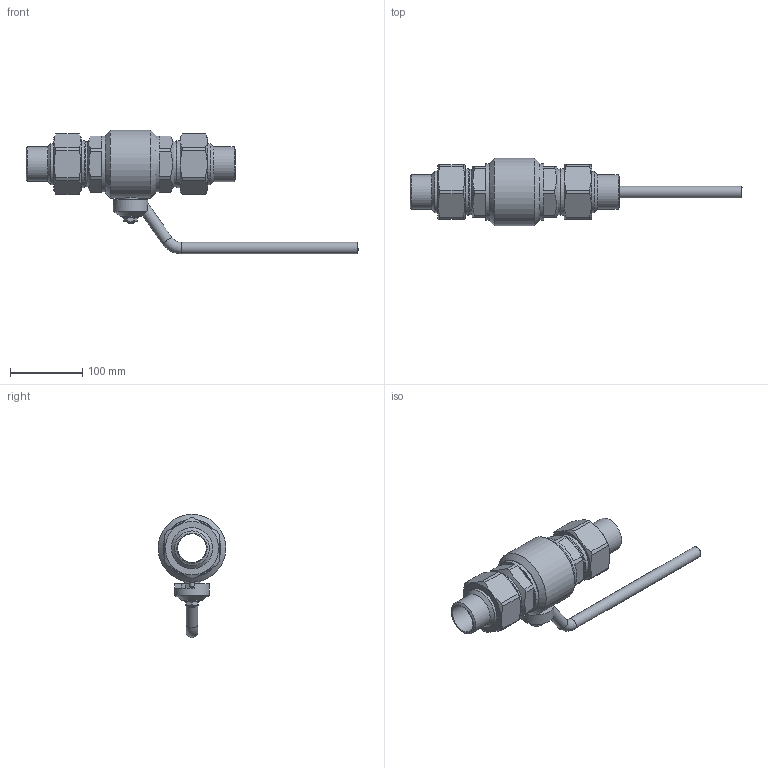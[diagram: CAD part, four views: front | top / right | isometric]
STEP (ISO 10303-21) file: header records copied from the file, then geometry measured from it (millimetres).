
FILE_DESCRIPTION(('STEP AP203'), '1');
FILE_NAME('ZARDP 040.025.30.P.stp', '2013-12-06T07:17:02', ('User'), ('Computer'), 'ASCON STEP Converter 1.3', 'Kompas 3D', '');
FILE_SCHEMA(('CONFIG_CONTROL_DESIGN','SUPPORT_RESOURCE_SCHEMA'));
Length unit declared in the file: millimetre
Products named in the file (1): 144
Bounding box: 460.01 x 94 x 171 mm (x, y, z)
Volume: 883111.8 mm3; surface area: 173341.8 mm2
Topology: 1 solids, 7 shells, 242 faces, 551 edges, 348 vertices
Faces by surface type: plane 121, cylinder 74, cone 37, torus 8, sphere 2
Full cylindrical faces by diameter (mm): 6 x2, 10 x2, 16 x3, 16.1 x1, 21.8 x1, 22 x2, 24.3 x1, 24.5 x1, 40 x4, 48 x3, 55 x2, 57 x2, 62.5 x2, 62.8 x2, 63.376 x2, 65 x2, 68.4 x1, 78 x2, 94 x1
Entity records: 9397 total; most frequent: CARTESIAN_POINT 3808, DIRECTION 1189, ORIENTED_EDGE 1102, EDGE_CURVE 551, AXIS2_PLACEMENT_3D 472, VERTEX_POINT 348, EDGE_LOOP 275, LINE 245
